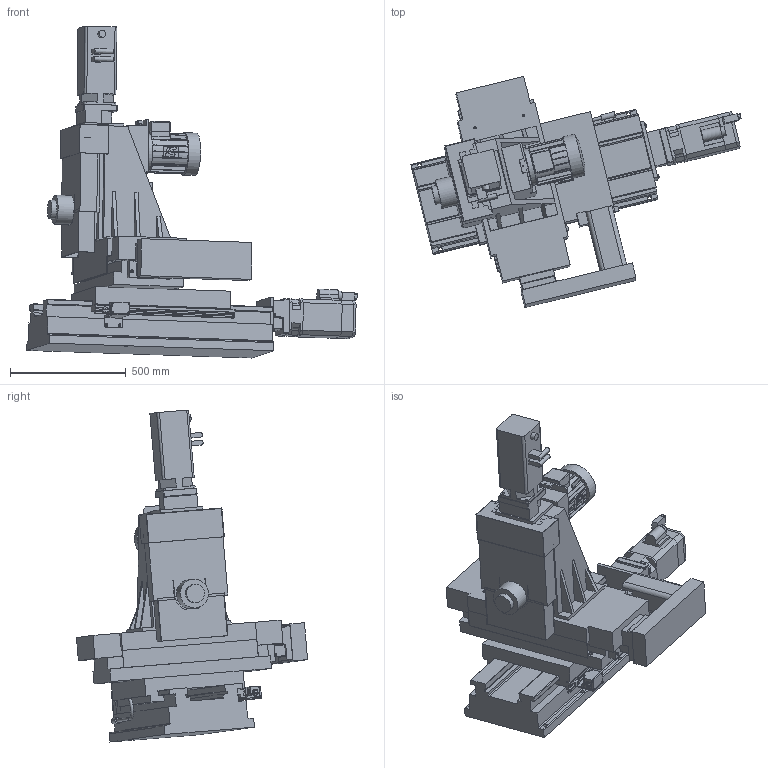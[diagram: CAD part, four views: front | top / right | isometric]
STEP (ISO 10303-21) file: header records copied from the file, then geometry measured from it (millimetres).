
FILE_DESCRIPTION((''),'2;1');
FILE_NAME('C:\VaultWork\Zeichnungen\Maßblätter\3-achsiges Fräsaggregat\BF01371-1-0 Maßblatt Typ BF3b - H242-me-100-EE - H300-me-100-EE - H400-me-400-EE.stp','2009-04-17T09:01:05',('Test'),(''),'Autodesk Inventor 2008','Autodesk Inventor 2008','');
FILE_SCHEMA(('AUTOMOTIVE_DESIGN { 1 0 10303 214 1 1 1 1 }'));
Length unit declared in the file: millimetre
Products named in the file (1): BF01371-1-0 Maßblatt Typ BF3b - H242-me-100-EE - H300-me-100-EE - H400-me-400-EE
Bounding box: 1426.15 x 998.47 x 1434.03 mm (x, y, z)
Volume: 184158304.3 mm3; surface area: 6962203.8 mm2
Topology: 2 solids, 26 shells, 1674 faces, 4506 edges, 2918 vertices
Faces by surface type: plane 1151, cylinder 281, bspline 145, cone 49, torus 40, sphere 8
Full cylindrical faces by diameter (mm): 3.8 x4, 4 x4, 4.917 x4, 5.9 x4, 6 x10, 6.6 x4, 8 x4, 9.98 x4, 10 x10, 11 x4, 13 x10, 20 x6, 22 x1, 24 x1, 25 x2, 27 x1, 30 x1, 32 x1, 35 x1, 40 x1, 42.3 x1, 80 x1, 88 x1, 118 x1, 125 x2, 140 x1, 158 x1, 160 x1, 184 x1
Entity records: 56407 total; most frequent: CARTESIAN_POINT 14776, ORIENTED_EDGE 8354, DIRECTION 7763, EDGE_CURVE 4177, VECTOR 3027, LINE 3027, VERTEX_POINT 2802, AXIS2_PLACEMENT_3D 2368
